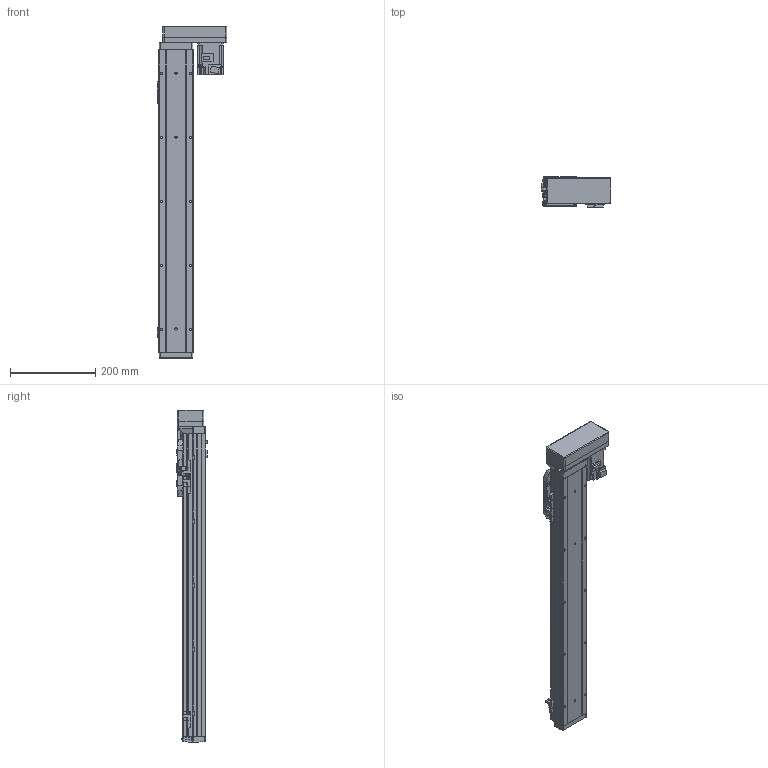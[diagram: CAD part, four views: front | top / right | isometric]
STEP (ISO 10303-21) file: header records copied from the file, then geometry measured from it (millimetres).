
FILE_DESCRIPTION (( 'STEP AP214' ), '1' );
FILE_NAME ('GSH8-550-BL-M20-1.step', '2025-01-07T06:06:05', ( '' ), ( '' ), 'SwSTEP 2.0', 'SolidWorks 2012', '' );
FILE_SCHEMA (( 'AUTOMOTIVE_DESIGN' ));
Length unit declared in the file: millimetre
Products named in the file (5): GSH8-550-BL-M20-1; GSH8-BL-008; GSH8-BL-011-550-M20; HG-KR23_200W_Motor; GSH8-GY-004
Assembly tree (4 placements, depth 2):
  GSH8-550-BL-M20-1
    GSH8-BL-011-550-M20
    GSH8-GY-004
    GSH8-BL-008
    HG-KR23_200W_Motor
Bounding box: 163 x 71.3 x 778.2 mm (x, y, z)
Volume: 2004117.1 mm3; surface area: 490179 mm2
Topology: 4 solids, 8 shells, 1118 faces, 2927 edges, 1882 vertices
Faces by surface type: plane 636, cylinder 386, torus 42, cone 26, bspline 24, sphere 4
Entity records: 44433 total; most frequent: CARTESIAN_POINT 10528, DIRECTION 5939, ORIENTED_EDGE 5838, EDGE_CURVE 2919, AXIS2_PLACEMENT_3D 1997, VECTOR 1945, LINE 1945, VERTEX_POINT 1878
